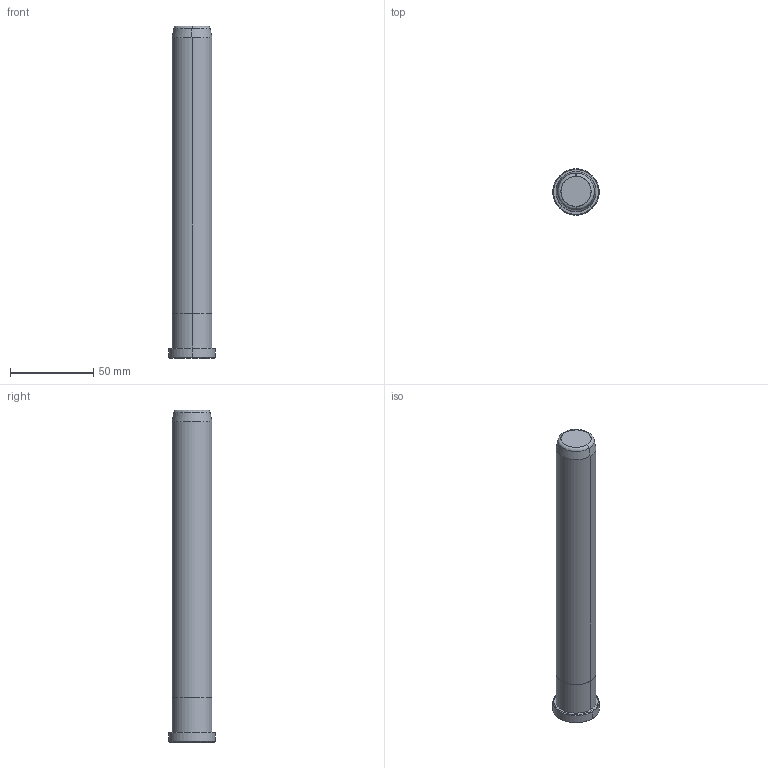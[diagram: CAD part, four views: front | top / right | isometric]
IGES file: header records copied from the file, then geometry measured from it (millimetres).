
Start section: START RECORD GO HERE.
Global section: file name: B82824200.igs; native system: DASSAULT SYSTEMES CATIA V5 R20 - www.3ds.com; preprocessor: CATIA Version 5 Release 20 ; author: Utente; organization: NB04-ASUS; date: 20200419.173440; units: millimetre
Bounding box: 28 x 28 x 200 mm (x, y, z)
Surface area: 16188.5 mm2 (no closed solid volume)
Topology: 0 solids, 0 shells, 20 faces, 80 edges, 80 vertices
Faces by surface type: revolution 16, plane 4
